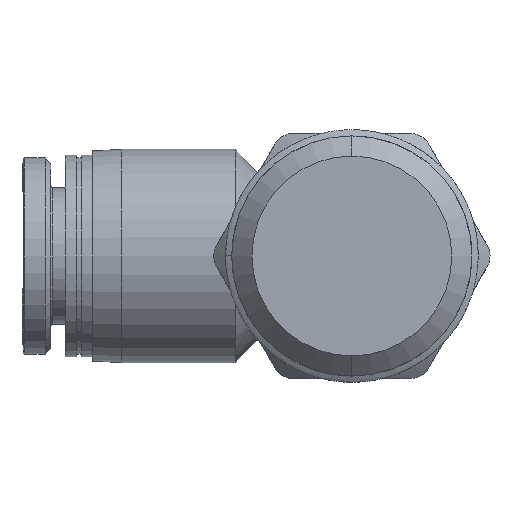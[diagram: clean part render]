
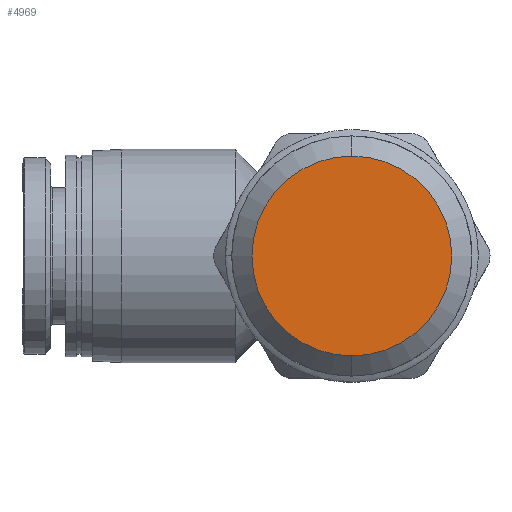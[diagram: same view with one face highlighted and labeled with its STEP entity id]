
A CAD part, front view. The second image highlights one B-rep face of the part: STEP entity #4969.
In plain terms, the highlighted planar face has unit normal (0, -1, 0).
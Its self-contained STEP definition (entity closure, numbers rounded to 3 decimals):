
#85 = EDGE_LOOP ( 'NONE', ( #5482, #2537 ) ) ;
#739 = CIRCLE ( 'NONE', #6451, 6.931 ) ;
#966 = PLANE ( 'NONE',  #7926 ) ;
#1415 = DIRECTION ( 'NONE',  ( 0., 1., 0. ) ) ;
#2077 = CARTESIAN_POINT ( 'NONE',  ( 15.98, -22.6, 0. ) ) ;
#2483 = VERTEX_POINT ( 'NONE', #4268 ) ;
#2537 = ORIENTED_EDGE ( 'NONE', *, *, #6817, .F. ) ;
#2614 = DIRECTION ( 'NONE',  ( 0., 0., 1. ) ) ;
#2747 = EDGE_CURVE ( 'NONE', #2483, #5966, #8073, .T. ) ;
#3509 = FACE_OUTER_BOUND ( 'NONE', #85, .T. ) ;
#3579 = DIRECTION ( 'NONE',  ( 0., 1., 0. ) ) ;
#4169 = DIRECTION ( 'NONE',  ( 0., 1., 0. ) ) ;
#4268 = CARTESIAN_POINT ( 'NONE',  ( 15.98, -22.6, 6.931 ) ) ;
#4969 = ADVANCED_FACE ( 'NONE', ( #3509 ), #966, .F. ) ;
#5471 = DIRECTION ( 'NONE',  ( 0., 0., 1. ) ) ;
#5482 = ORIENTED_EDGE ( 'NONE', *, *, #2747, .F. ) ;
#5501 = CARTESIAN_POINT ( 'NONE',  ( 15.98, -22.6, 0. ) ) ;
#5966 = VERTEX_POINT ( 'NONE', #7873 ) ;
#6451 = AXIS2_PLACEMENT_3D ( 'NONE', #5501, #3579, #8049 ) ;
#6489 = AXIS2_PLACEMENT_3D ( 'NONE', #2077, #1415, #2614 ) ;
#6817 = EDGE_CURVE ( 'NONE', #5966, #2483, #739, .T. ) ;
#7348 = CARTESIAN_POINT ( 'NONE',  ( 22.911, -22.6, 0. ) ) ;
#7873 = CARTESIAN_POINT ( 'NONE',  ( 15.98, -22.6, -6.931 ) ) ;
#7926 = AXIS2_PLACEMENT_3D ( 'NONE', #7348, #4169, #5471 ) ;
#8049 = DIRECTION ( 'NONE',  ( 0., 0., 1. ) ) ;
#8073 = CIRCLE ( 'NONE', #6489, 6.931 ) ;
